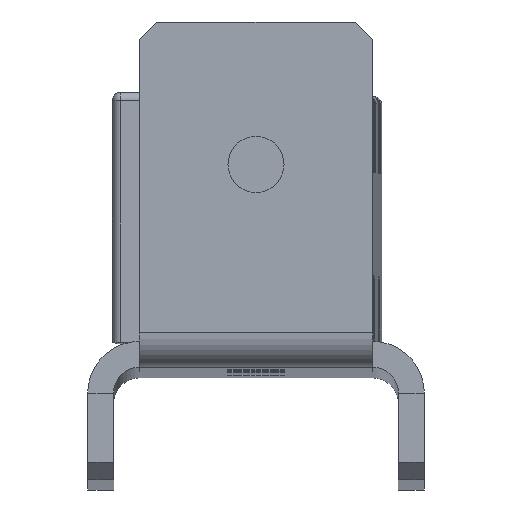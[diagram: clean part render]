
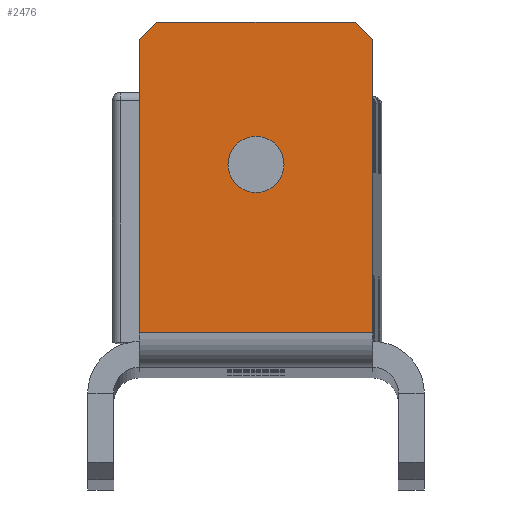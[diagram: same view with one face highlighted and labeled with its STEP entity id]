
A CAD part, top view. The second image highlights one B-rep face of the part: STEP entity #2476.
In plain terms, the highlighted planar face has unit normal (0, 0, 1).
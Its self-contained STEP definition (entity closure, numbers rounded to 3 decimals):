
#981=DIRECTION('',(-1.,0.,0.));
#982=VECTOR('',#981,27.);
#983=CARTESIAN_POINT('',(13.5,4.,354.));
#984=LINE('',#983,#982);
#1011=DIRECTION('',(0.,-1.,0.));
#1012=VECTOR('',#1011,34.);
#1013=CARTESIAN_POINT('',(13.5,38.,354.));
#1014=LINE('',#1013,#1012);
#1025=DIRECTION('',(-1.,0.,0.));
#1026=VECTOR('',#1025,23.);
#1027=CARTESIAN_POINT('',(11.5,40.,354.));
#1028=LINE('',#1027,#1026);
#1032=CARTESIAN_POINT('',(0.,23.5,354.));
#1033=DIRECTION('',(0.,0.,1.));
#1034=DIRECTION('',(-1.,0.,0.));
#1035=AXIS2_PLACEMENT_3D('',#1032,#1033,#1034);
#1040=CARTESIAN_POINT('',(0.,23.5,354.));
#1041=DIRECTION('',(0.,0.,1.));
#1042=DIRECTION('',(1.,0.,0.));
#1043=AXIS2_PLACEMENT_3D('',#1040,#1041,#1042);
#1048=DIRECTION('',(0.,-1.,0.));
#1049=VECTOR('',#1048,34.);
#1050=CARTESIAN_POINT('',(-13.5,38.,354.));
#1051=LINE('',#1050,#1049);
#1099=DIRECTION('',(-0.707,0.707,0.));
#1100=VECTOR('',#1099,2.828);
#1101=CARTESIAN_POINT('',(13.5,38.,354.));
#1102=LINE('',#1101,#1100);
#1127=DIRECTION('',(-0.707,-0.707,0.));
#1128=VECTOR('',#1127,2.828);
#1129=CARTESIAN_POINT('',(-11.5,40.,354.));
#1130=LINE('',#1129,#1128);
#1622=CARTESIAN_POINT('',(-13.5,4.,354.));
#1624=VERTEX_POINT('',#1622);
#1630=CARTESIAN_POINT('',(13.5,38.,354.));
#1631=CARTESIAN_POINT('',(13.5,4.,354.));
#1632=VERTEX_POINT('',#1630);
#1633=VERTEX_POINT('',#1631);
#1638=CARTESIAN_POINT('',(-13.5,38.,354.));
#1639=VERTEX_POINT('',#1638);
#1678=CARTESIAN_POINT('',(-3.25,23.5,354.));
#1679=CARTESIAN_POINT('',(3.25,23.5,354.));
#1680=VERTEX_POINT('',#1678);
#1681=VERTEX_POINT('',#1679);
#1694=CARTESIAN_POINT('',(-11.5,40.,354.));
#1696=VERTEX_POINT('',#1694);
#1706=CARTESIAN_POINT('',(11.5,40.,354.));
#1708=VERTEX_POINT('',#1706);
#2453=CARTESIAN_POINT('',(13.5,40.,354.));
#2454=DIRECTION('',(0.,0.,1.));
#2455=DIRECTION('',(0.,-1.,0.));
#2456=AXIS2_PLACEMENT_3D('',#2453,#2454,#2455);
#2457=PLANE('',#2456);
#2458=ORIENTED_EDGE('',*,*,#2443,.T.);
#2459=ORIENTED_EDGE('',*,*,#2418,.T.);
#2461=ORIENTED_EDGE('',*,*,#2460,.F.);
#2463=ORIENTED_EDGE('',*,*,#2462,.F.);
#2465=ORIENTED_EDGE('',*,*,#2464,.F.);
#2467=ORIENTED_EDGE('',*,*,#2466,.F.);
#2468=EDGE_LOOP('',(#2458,#2459,#2461,#2463,#2465,#2467));
#2469=FACE_OUTER_BOUND('',#2468,.F.);
#2471=ORIENTED_EDGE('',*,*,#2470,.T.);
#2473=ORIENTED_EDGE('',*,*,#2472,.T.);
#2474=EDGE_LOOP('',(#2471,#2473));
#2475=FACE_BOUND('',#2474,.F.);
#1036=CIRCLE('',#1035,3.25);
#1044=CIRCLE('',#1043,3.25);
#2418=EDGE_CURVE('',#1633,#1624,#984,.T.);
#2443=EDGE_CURVE('',#1632,#1633,#1014,.T.);
#2460=EDGE_CURVE('',#1639,#1624,#1051,.T.);
#2462=EDGE_CURVE('',#1696,#1639,#1130,.T.);
#2464=EDGE_CURVE('',#1708,#1696,#1028,.T.);
#2466=EDGE_CURVE('',#1632,#1708,#1102,.T.);
#2470=EDGE_CURVE('',#1680,#1681,#1036,.T.);
#2472=EDGE_CURVE('',#1681,#1680,#1044,.T.);
#2476=ADVANCED_FACE('',(#2469,#2475),#2457,.T.);
